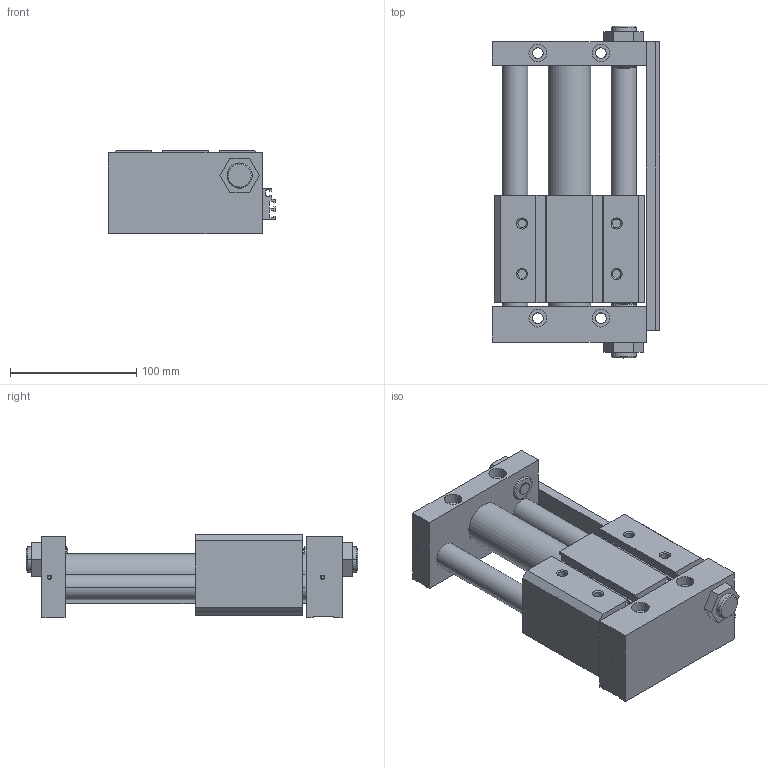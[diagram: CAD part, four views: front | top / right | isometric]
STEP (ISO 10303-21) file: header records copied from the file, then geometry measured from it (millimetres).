
FILE_DESCRIPTION((''),'2;1');
FILE_NAME('C:\Documents and Settings\Administrator\桌面\GYS\GYS32\GYSR32X100.stp','2012-03-06T20:19:14',('Administrator'),(''),'Autodesk Inventor 8','Autodesk Inventor 8','');
FILE_SCHEMA(('AUTOMOTIVE_DESIGN { 1 0 10303 214 1 1 1 1 }'));
Length unit declared in the file: millimetre
Products named in the file (3): GYSR32X100; GYS32X100; GYS32160X100
Assembly tree (2 placements, depth 2):
  GYSR32X100
    GYS32X100
    GYS32160X100
Bounding box: 132.5 x 263 x 66 mm (x, y, z)
Volume: 1150787.8 mm3; surface area: 155787 mm2
Topology: 2 solids, 2 shells, 291 faces, 770 edges, 504 vertices
Faces by surface type: plane 161, cylinder 96, cone 28, bspline 6
Entity records: 9200 total; most frequent: CARTESIAN_POINT 1644, DIRECTION 1598, ORIENTED_EDGE 1540, EDGE_CURVE 770, AXIS2_PLACEMENT_3D 538, VECTOR 522, LINE 522, VERTEX_POINT 504
